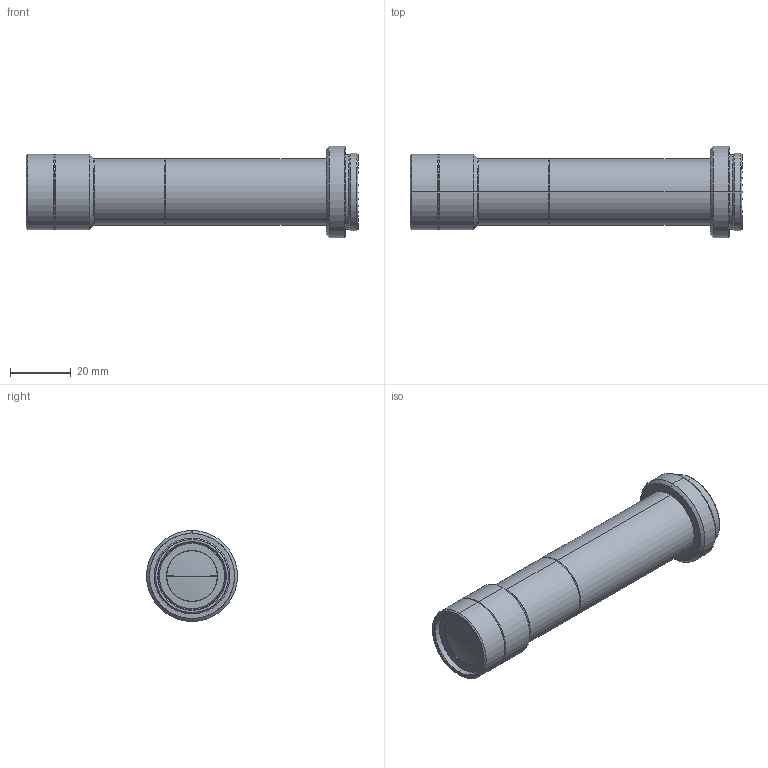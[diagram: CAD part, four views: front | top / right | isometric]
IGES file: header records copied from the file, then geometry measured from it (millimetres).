
Start section: SolidWorks IGES file using analytic representation for surfaces
Bounding box: 109.3 x 30 x 30 mm (x, y, z)
Surface area: 14041.8 mm2 (no closed solid volume)
Topology: 0 solids, 0 shells, 100 faces, 1276 edges, 1275 vertices
Faces by surface type: revolution 86, bspline 14
